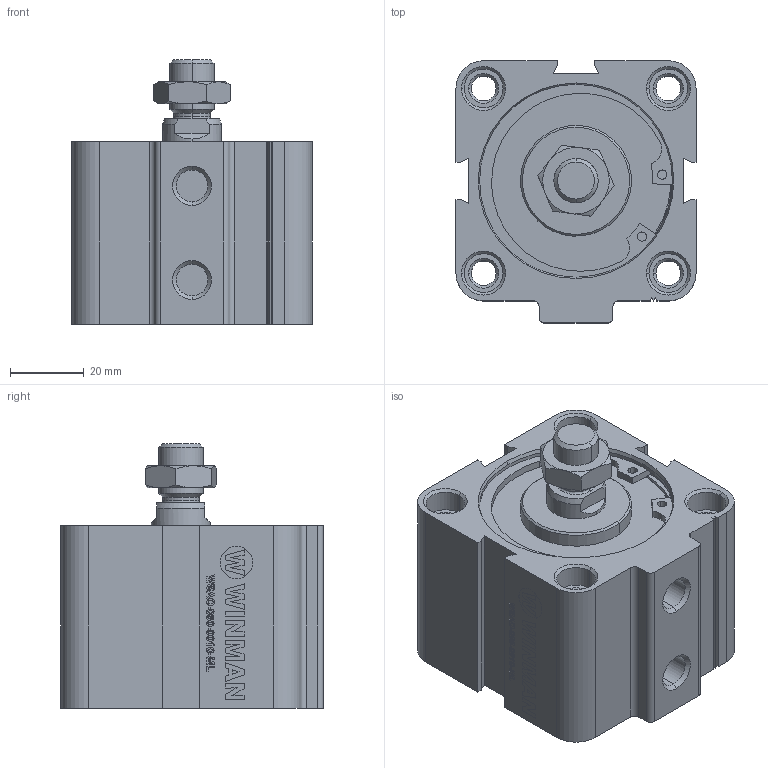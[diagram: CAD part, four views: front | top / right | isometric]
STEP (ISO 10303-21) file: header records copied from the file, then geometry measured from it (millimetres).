
FILE_DESCRIPTION (( 'STEP AP214' ), '1' );
FILE_NAME ('WSAC-050-0010-ML (3D).STEP', '2021-02-09T12:26:44', ( '' ), ( '' ), 'SwSTEP 2.0', 'SolidWorks 2016', '' );
FILE_SCHEMA (( 'AUTOMOTIVE_DESIGN' ));
Length unit declared in the file: millimetre
Products named in the file (4): WSAC-050-0010-ML (3D); Group1^WSAC-050-0010-ML (3D); Group3^WSAC-050-0010-ML (3D); Group2^WSAC-050-0010-ML (3D)
Assembly tree (3 placements, depth 2):
  WSAC-050-0010-ML (3D)
    Group1^WSAC-050-0010-ML (3D)
    Group2^WSAC-050-0010-ML (3D)
    Group3^WSAC-050-0010-ML (3D)
Bounding box: 65 x 71 x 71.67 mm (x, y, z)
Volume: 171412.7 mm3; surface area: 54534 mm2
Topology: 7 solids, 7 shells, 542 faces, 1365 edges, 889 vertices
Faces by surface type: plane 263, cylinder 112, bspline 88, cone 79
Entity records: 22322 total; most frequent: CARTESIAN_POINT 8396, ORIENTED_EDGE 2730, DIRECTION 2400, EDGE_CURVE 1365, VERTEX_POINT 889, VECTOR 838, LINE 838, AXIS2_PLACEMENT_3D 781
